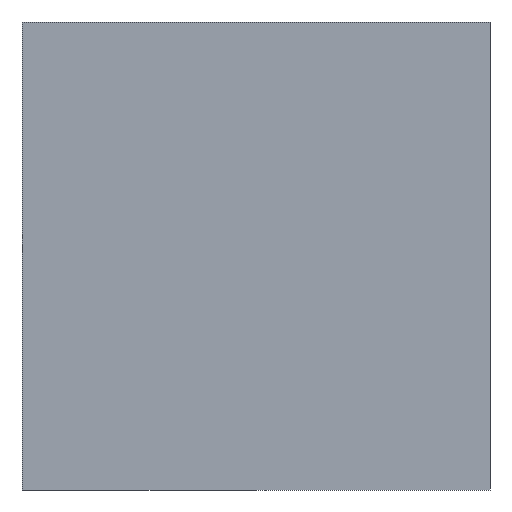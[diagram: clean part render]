
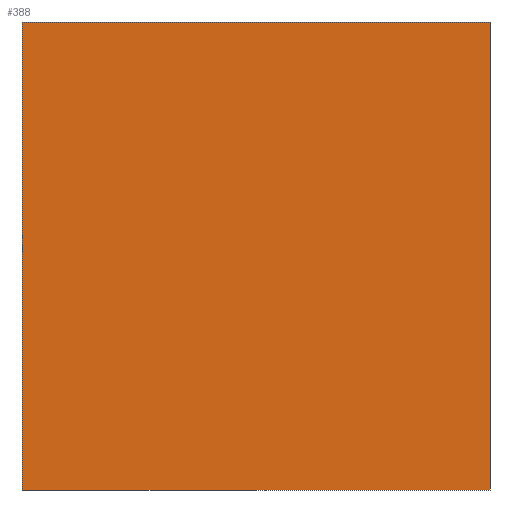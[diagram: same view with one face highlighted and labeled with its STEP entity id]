
A CAD part, left-side view. The second image highlights one B-rep face of the part: STEP entity #388.
In plain terms, the highlighted planar face has unit normal (-1, 0, 0).
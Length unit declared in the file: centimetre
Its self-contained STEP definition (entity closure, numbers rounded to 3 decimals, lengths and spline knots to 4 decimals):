
#3 = LINE ( 'NONE', #324, #105 ) ;
#7 = VECTOR ( 'NONE', #347, 100. ) ;
#19 = ORIENTED_EDGE ( 'NONE', *, *, #369, .T. ) ;
#22 = VERTEX_POINT ( 'NONE', #159 ) ;
#32 = ORIENTED_EDGE ( 'NONE', *, *, #397, .T. ) ;
#45 = DIRECTION ( 'NONE',  ( 1., 0., 0. ) ) ;
#49 = CARTESIAN_POINT ( 'NONE',  ( 0., 1000., 0. ) ) ;
#72 = EDGE_CURVE ( 'NONE', #172, #22, #3, .T. ) ;
#73 = ORIENTED_EDGE ( 'NONE', *, *, #72, .F. ) ;
#74 = LINE ( 'NONE', #391, #7 ) ;
#82 = FACE_OUTER_BOUND ( 'NONE', #318, .T. ) ;
#90 = VERTEX_POINT ( 'NONE', #295 ) ;
#105 = VECTOR ( 'NONE', #465, 100. ) ;
#106 = VERTEX_POINT ( 'NONE', #398 ) ;
#154 = DIRECTION ( 'NONE',  ( 0., 0., -1. ) ) ;
#159 = CARTESIAN_POINT ( 'NONE',  ( 0., 0., 0. ) ) ;
#160 = AXIS2_PLACEMENT_3D ( 'NONE', #434, #45, #253 ) ;
#172 = VERTEX_POINT ( 'NONE', #238 ) ;
#193 = LINE ( 'NONE', #361, #255 ) ;
#211 = VECTOR ( 'NONE', #438, 100. ) ;
#217 = PLANE ( 'NONE',  #160 ) ;
#238 = CARTESIAN_POINT ( 'NONE',  ( 0., 0., 1000. ) ) ;
#239 = EDGE_CURVE ( 'NONE', #106, #172, #74, .T. ) ;
#253 = DIRECTION ( 'NONE',  ( 0., 0., -1. ) ) ;
#255 = VECTOR ( 'NONE', #154, 100. ) ;
#295 = CARTESIAN_POINT ( 'NONE',  ( 0., 1000., 0. ) ) ;
#318 = EDGE_LOOP ( 'NONE', ( #32, #73, #348, #19 ) ) ;
#324 = CARTESIAN_POINT ( 'NONE',  ( 0., 0., 1000. ) ) ;
#333 = LINE ( 'NONE', #49, #211 ) ;
#347 = DIRECTION ( 'NONE',  ( 0., -1., 0. ) ) ;
#348 = ORIENTED_EDGE ( 'NONE', *, *, #239, .F. ) ;
#361 = CARTESIAN_POINT ( 'NONE',  ( 0., 1000., 1000. ) ) ;
#369 = EDGE_CURVE ( 'NONE', #106, #90, #193, .T. ) ;
#388 = ADVANCED_FACE ( 'NONE', ( #82 ), #217, .F. ) ;
#391 = CARTESIAN_POINT ( 'NONE',  ( 0., 1000., 1000. ) ) ;
#397 = EDGE_CURVE ( 'NONE', #90, #22, #333, .T. ) ;
#398 = CARTESIAN_POINT ( 'NONE',  ( 0., 1000., 1000. ) ) ;
#434 = CARTESIAN_POINT ( 'NONE',  ( 0., 1000., 1000. ) ) ;
#438 = DIRECTION ( 'NONE',  ( 0., -1., 0. ) ) ;
#465 = DIRECTION ( 'NONE',  ( 0., 0., -1. ) ) ;
